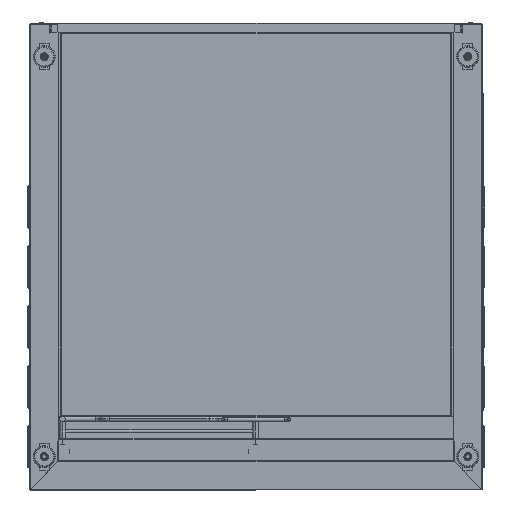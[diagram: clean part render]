
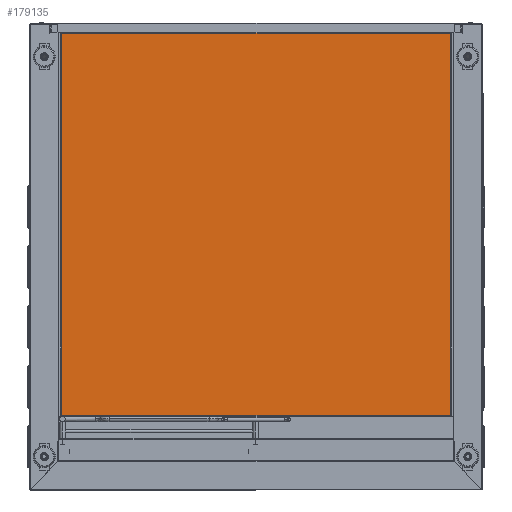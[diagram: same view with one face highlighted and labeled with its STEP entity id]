
A CAD part, front view. The second image highlights one B-rep face of the part: STEP entity #179135.
In plain terms, the highlighted planar face has unit normal (0, -1, 0).
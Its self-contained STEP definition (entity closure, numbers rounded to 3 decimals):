
#8931 = AXIS2_PLACEMENT_3D ( 'NONE', #122627, #33559, #230311 ) ;
#9440 = LINE ( 'NONE', #84366, #161356 ) ;
#13755 = FACE_OUTER_BOUND ( 'NONE', #136144, .T. ) ;
#15513 = EDGE_CURVE ( 'NONE', #101775, #86110, #9440, .T. ) ;
#27187 = CARTESIAN_POINT ( 'NONE',  ( -292., 4.7, 111.961 ) ) ;
#33559 = DIRECTION ( 'NONE',  ( 0., -1., 0. ) ) ;
#46849 = DIRECTION ( 'NONE',  ( 0., 0., -1. ) ) ;
#72356 = LINE ( 'NONE', #197736, #221836 ) ;
#84366 = CARTESIAN_POINT ( 'NONE',  ( -292., 4.7, 685.961 ) ) ;
#86110 = VERTEX_POINT ( 'NONE', #191310 ) ;
#86347 = PLANE ( 'NONE',  #8931 ) ;
#96660 = ORIENTED_EDGE ( 'NONE', *, *, #15513, .T. ) ;
#101775 = VERTEX_POINT ( 'NONE', #223532 ) ;
#107052 = VERTEX_POINT ( 'NONE', #162293 ) ;
#121814 = LINE ( 'NONE', #138156, #230830 ) ;
#122627 = CARTESIAN_POINT ( 'NONE',  ( 0., 4.7, 398.961 ) ) ;
#122786 = DIRECTION ( 'NONE',  ( -1., 0., 0. ) ) ;
#126238 = ORIENTED_EDGE ( 'NONE', *, *, #127112, .T. ) ;
#127112 = EDGE_CURVE ( 'NONE', #107052, #101775, #72356, .T. ) ;
#128674 = EDGE_CURVE ( 'NONE', #86110, #170338, #187610, .T. ) ;
#136144 = EDGE_LOOP ( 'NONE', ( #189423, #126238, #96660, #173879 ) ) ;
#138156 = CARTESIAN_POINT ( 'NONE',  ( 292., 4.7, 685.961 ) ) ;
#155866 = DIRECTION ( 'NONE',  ( 1., 0., 0. ) ) ;
#160996 = CARTESIAN_POINT ( 'NONE',  ( 292., 4.7, 111.961 ) ) ;
#161356 = VECTOR ( 'NONE', #46849, 1000. ) ;
#162293 = CARTESIAN_POINT ( 'NONE',  ( 292., 4.7, 685.961 ) ) ;
#170338 = VERTEX_POINT ( 'NONE', #160996 ) ;
#173879 = ORIENTED_EDGE ( 'NONE', *, *, #128674, .T. ) ;
#177163 = VECTOR ( 'NONE', #155866, 1000. ) ;
#179135 = ADVANCED_FACE ( 'NONE', ( #13755 ), #86347, .T. ) ;
#187610 = LINE ( 'NONE', #27187, #177163 ) ;
#189423 = ORIENTED_EDGE ( 'NONE', *, *, #223387, .T. ) ;
#191310 = CARTESIAN_POINT ( 'NONE',  ( -292., 4.7, 111.961 ) ) ;
#197736 = CARTESIAN_POINT ( 'NONE',  ( -292., 4.7, 685.961 ) ) ;
#209751 = DIRECTION ( 'NONE',  ( 0., 0., 1. ) ) ;
#221836 = VECTOR ( 'NONE', #122786, 1000. ) ;
#223387 = EDGE_CURVE ( 'NONE', #170338, #107052, #121814, .T. ) ;
#223532 = CARTESIAN_POINT ( 'NONE',  ( -292., 4.7, 685.961 ) ) ;
#230311 = DIRECTION ( 'NONE',  ( -1., 0., 0. ) ) ;
#230830 = VECTOR ( 'NONE', #209751, 1000. ) ;
